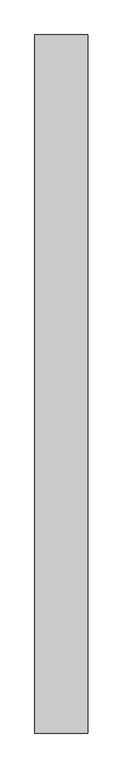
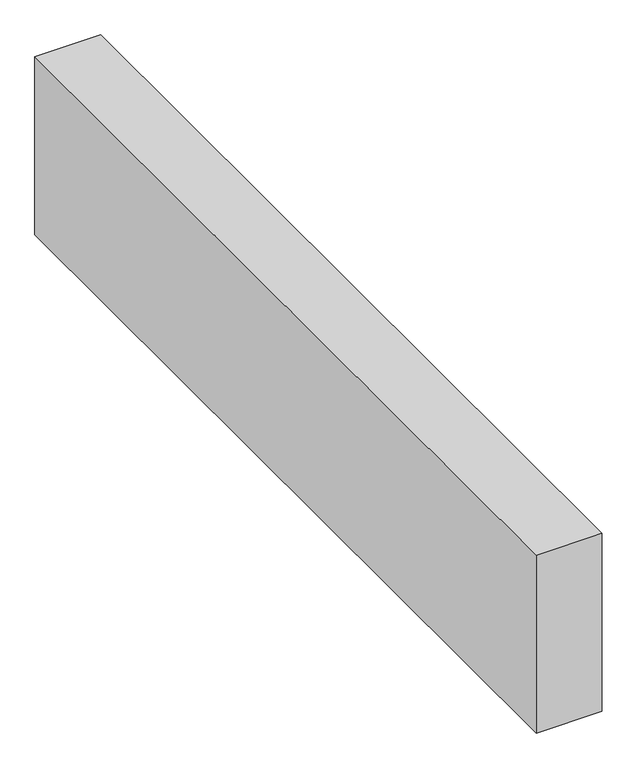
"""IFC4 building model written with IfcOpenShell, lengths in millimetres: proxy geometry."""

from ifc_helpers import new_model, si_unit, frame, origin, place, context, project, spatial, polyline, outline, extrude, source, transform, mapped, element, save


def structural_framing_17e9f187(model_context):
    return source(origin(), model_context, "Body", "SweptSolid", [
        extrude(outline(polyline([(70.0, -923.7), (-70.0, -923.7), (-70.0, 923.7), (70.0, 923.7), (70.0, -923.7)])), frame((0.0, 0.0, -400.0), z_axis=(0.0, 0.0, 1.0), x_axis=(1.0, 0.0, 0.0)), (0.0, 0.0, 1.0), 400.0),
    ])


if __name__ == "__main__":
    model = new_model("IFC4")
    model_context = context("Model", 3, world=origin())
    ifc_project = project(units=[si_unit("LENGTHUNIT", "METRE", prefix="MILLI")], contexts=[model_context])
    site = spatial("IfcSite", under=ifc_project)
    building = spatial("IfcBuilding", under=site)
    placement = place(None, origin())
    structural_framing_shape = structural_framing_17e9f187(model_context)
    element("IfcBuildingElementProxy", 1, Name="Structural Framing", at=placement, inside=building, context=model_context, shape_type="MappedRepresentation", body=[
        mapped(structural_framing_shape, transform((0.0, 0.0, 0.0), x_axis=(1.0, 0.0, 0.0), y_axis=(0.0, 1.0, 0.0), z_axis=(0.0, 0.0, 1.0))),
    ])
    save(model, "model.ifc")
